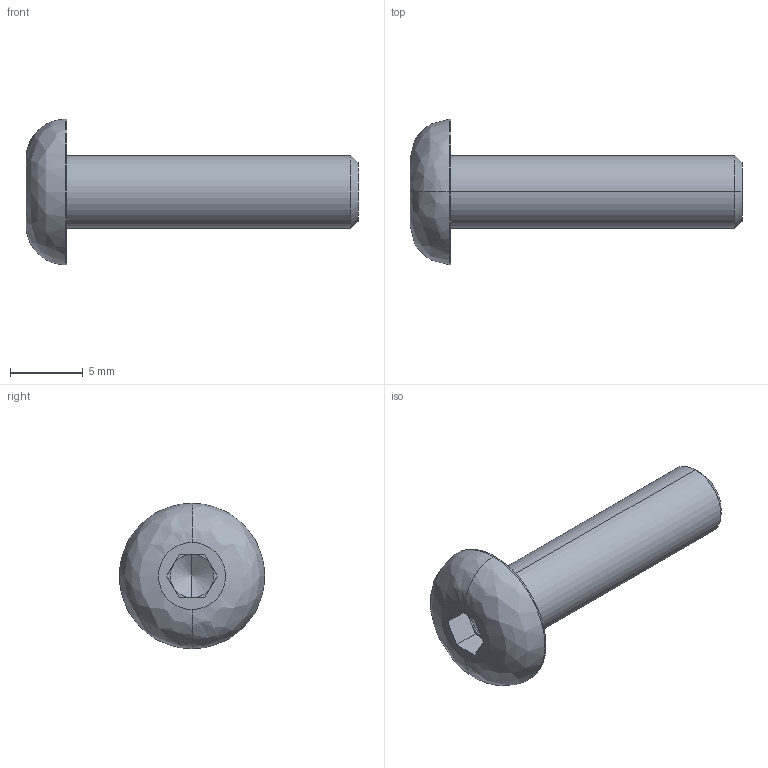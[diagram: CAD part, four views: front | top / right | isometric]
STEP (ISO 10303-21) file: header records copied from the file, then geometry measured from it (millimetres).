
FILE_DESCRIPTION (( 'STEP AP214' ), '1' );
FILE_NAME ('ISO7380_5x20.STEP', '2016-05-18T14:45:51', ( '' ), ( '' ), 'SwSTEP 2.0', 'SolidWorks 2014', '' );
FILE_SCHEMA (( 'AUTOMOTIVE_DESIGN' ));
Length unit declared in the file: millimetre
Products named in the file (1): ISO7380_5x20
Bounding box: 22.8 x 10 x 10 mm (x, y, z)
Volume: 550.6 mm3; surface area: 535.8 mm2
Topology: 1 solids, 1 shells, 27 faces, 59 edges, 34 vertices
Faces by surface type: plane 15, cylinder 6, cone 4, bspline 2
Entity records: 771 total; most frequent: CARTESIAN_POINT 158, DIRECTION 126, ORIENTED_EDGE 114, EDGE_CURVE 57, AXIS2_PLACEMENT_3D 46, VERTEX_POINT 34, VECTOR 34, LINE 34
